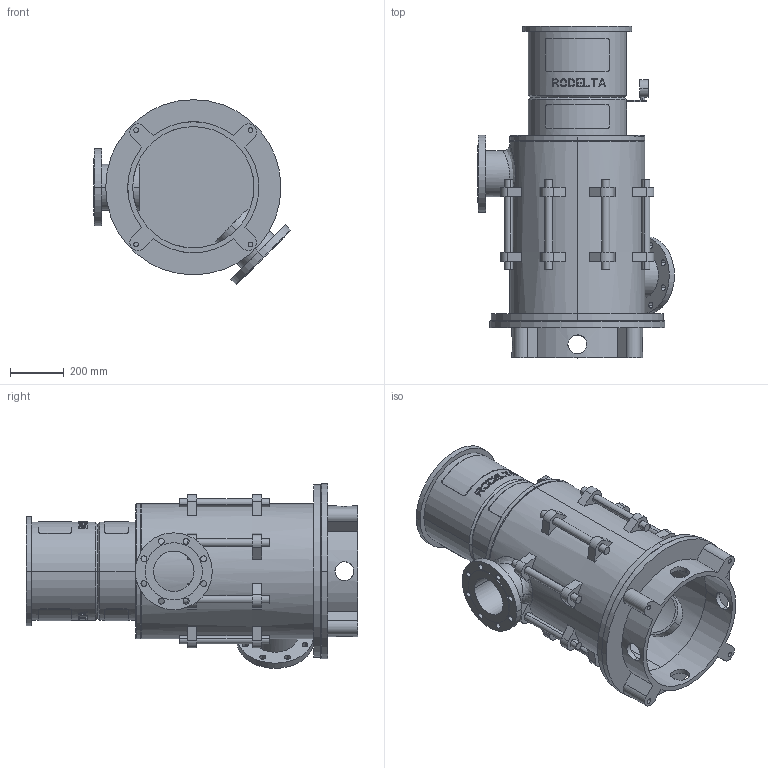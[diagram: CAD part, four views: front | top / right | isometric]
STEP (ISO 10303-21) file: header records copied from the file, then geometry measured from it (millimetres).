
FILE_DESCRIPTION((''),'2;1');
FILE_NAME('LS6_2TR_0GR_TOT_30KW','2023-08-15T',('Lyritlocal'),(''),'PRO/ENGINEER BY PARAMETRIC TECHNOLOGY CORPORATION, 2016360','PRO/ENGINEER BY PARAMETRIC TECHNOLOGY CORPORATION, 2016360','');
FILE_SCHEMA(('CONFIG_CONTROL_DESIGN'));
Length unit declared in the file: millimetre
Products named in the file (1): LS6_2TR_0GR_TOT_30KW
Bounding box: 730.27 x 1231 x 685.27 mm (x, y, z)
Volume: 40270189.3 mm3; surface area: 5291323.3 mm2
Topology: 3 solids, 7 shells, 684 faces, 1767 edges, 1174 vertices
Faces by surface type: plane 422, cylinder 242, cone 12, bspline 8
Entity records: 22664 total; most frequent: CARTESIAN_POINT 6052, ORIENTED_EDGE 3518, DIRECTION 3273, EDGE_CURVE 1767, AXIS2_PLACEMENT_3D 1237, VERTEX_POINT 1174, EDGE_LOOP 829, VECTOR 799
